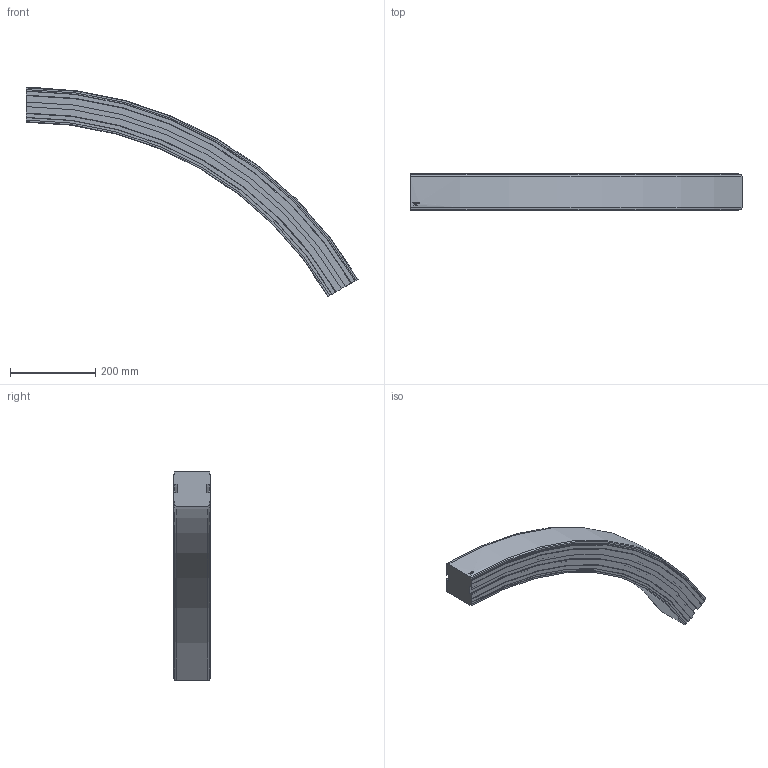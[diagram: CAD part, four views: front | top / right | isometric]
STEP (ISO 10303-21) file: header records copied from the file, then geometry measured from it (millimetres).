
FILE_DESCRIPTION((''),'2;1');
FILE_NAME('C:\Vault Klient\Projekt\Koncept konstruktion\Serie 830 Balk\830-5680_DOWN.stp','2009-11-27T11:19:12',('Mathias'),(''),'Autodesk Inventor 2010','Autodesk Inventor 2010','');
FILE_SCHEMA(('AUTOMOTIVE_DESIGN { 1 0 10303 214 1 1 1 1 }'));
Length unit declared in the file: millimetre
Products named in the file (1): 830-5680_DOWN
Bounding box: 778.99 x 86 x 490.5 mm (x, y, z)
Volume: 5977469.6 mm3; surface area: 380847 mm2
Topology: 1 solids, 1 shells, 93 faces, 258 edges, 172 vertices
Faces by surface type: plane 40, cylinder 23, bspline 14, cone 12, torus 4
Entity records: 3464 total; most frequent: CARTESIAN_POINT 1029, ORIENTED_EDGE 516, DIRECTION 472, EDGE_CURVE 258, VERTEX_POINT 172, AXIS2_PLACEMENT_3D 162, VECTOR 148, LINE 148
